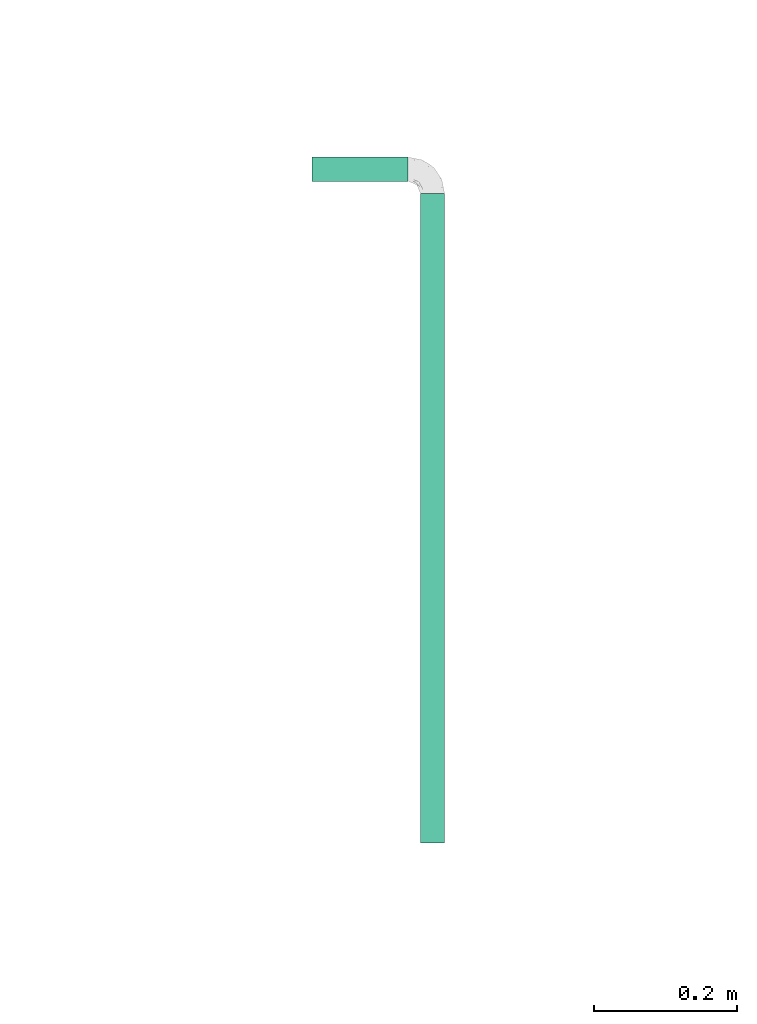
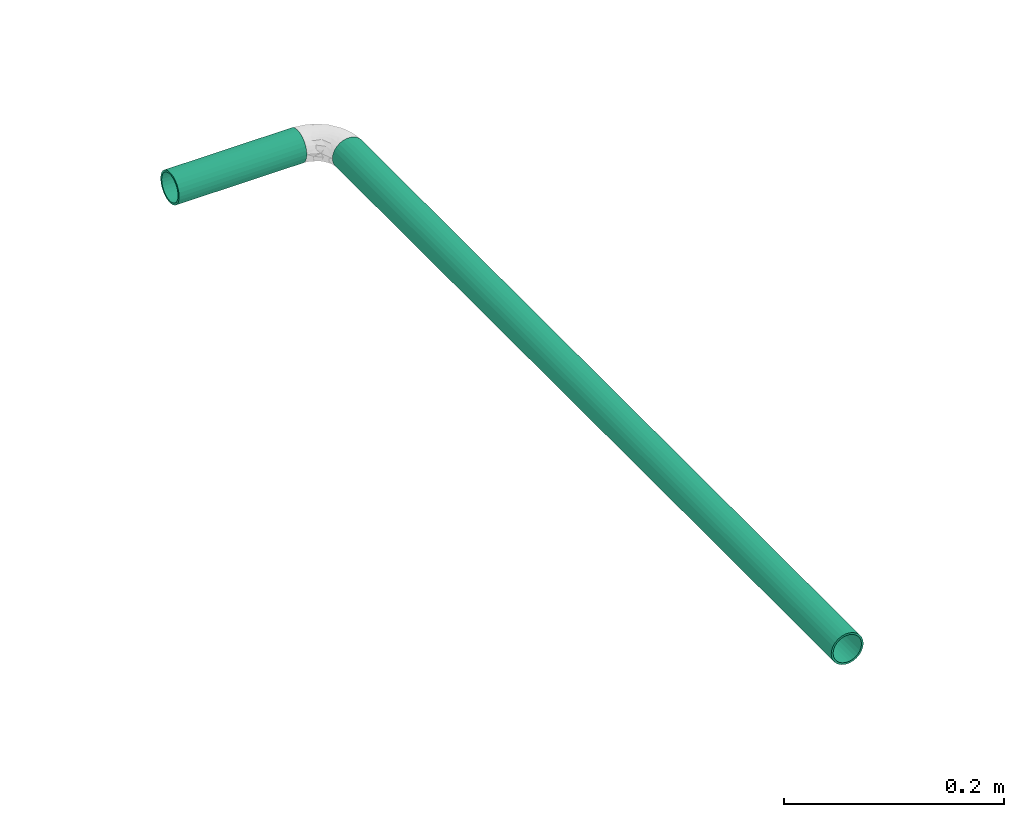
# One storey, part 12 of 63: 2 flow segments.
"""IFC2X3 building model written with IfcOpenShell, lengths in millimetres."""

import ifcopenshell
import ifcopenshell.guid

model = None  # the IFC model being written
_history = None  # IfcOwnerHistory: only IFC2X3 demands one
_inside = {}  # id of a spatial element -> (the spatial element, [elements in it])
_under = {}  # id of a project, library or spatial element -> (it, [spatial elements below it])
_declared = {}  # id of a project -> (the project, [libraries it declares])
_typed = {}  # id of a type object -> (the type object, [elements of that type])
_made_of = {}  # id of a material, layer set ... -> (it, [elements and type objects made of it])


def new_model(schema):
    """Start an empty IFC model of exactly this schema.

    Asked for "IFC4X3", IfcOpenShell would pick the latest addendum, in which some entities
    have other attributes; the version numbers below select the first issue.
    IFC2X3 requires an IfcOwnerHistory on every rooted entity: one is made here for all.
    """
    global model, _history
    if schema == "IFC4X3":
        model = ifcopenshell.file(schema_version=(4, 3, 0, 0))
    else:
        model = ifcopenshell.file(schema=schema)
    _inside.clear()
    _under.clear()
    _declared.clear()
    _typed.clear()
    _made_of.clear()
    _history = None
    if model.schema == "IFC2X3":
        org = make("IfcOrganization", Name="unknown")
        user = make(
            "IfcPersonAndOrganization",
            ThePerson=make("IfcPerson", FamilyName="unknown"),
            TheOrganization=org,
        )
        app = make(
            "IfcApplication",
            ApplicationDeveloper=org,
            Version="unknown",
            ApplicationFullName="unknown",
            ApplicationIdentifier="unknown",
        )
        _history = make(
            "IfcOwnerHistory",
            OwningUser=user,
            OwningApplication=app,
            ChangeAction="ADDED",
            CreationDate=0,
        )
    return model


def make(cls, **values):
    """One entity of the class cls with the attributes given. An attribute that is None is left unset."""
    return model.create_entity(
        cls, **{name: value for name, value in values.items() if value is not None}
    )


def entity(cls, *values):
    """Any entity or typed value of the class cls, its attributes in the order of the schema. None: left unset."""
    e = model.create_entity(cls)
    for i, value in enumerate(values):
        if value is not None:
            e[i] = value
    return e


def rooted(cls, **values):
    """An entity with a GlobalId (a new one), such as an element, a storey or a relation."""
    return make(cls, GlobalId=ifcopenshell.guid.new(), OwnerHistory=_history, **values)


def si_unit(unit_type, name, prefix=None):
    """IfcSIUnit, for example si_unit("LENGTHUNIT", "METRE", prefix="MILLI")."""
    return make("IfcSIUnit", UnitType=unit_type, Prefix=prefix, Name=name)


def converted_unit(unit_type, name, factor, base, dimensions=None, offset=None):
    """IfcConversionBasedUnit, such as the inch: factor (a typed value) times the base unit."""
    return make(
        "IfcConversionBasedUnit"
        if offset is None
        else "IfcConversionBasedUnitWithOffset",
        ConversionOffset=offset,
        Dimensions=None
        if dimensions is None
        else entity("IfcDimensionalExponents", *dimensions),
        UnitType=unit_type,
        Name=name,
        ConversionFactor=make(
            "IfcMeasureWithUnit", ValueComponent=factor, UnitComponent=base
        ),
    )


def derived_unit(unit_type, elements):
    """IfcDerivedUnit: a product of units, each with its exponent."""
    return make(
        "IfcDerivedUnit",
        Elements=[
            make("IfcDerivedUnitElement", Unit=unit, Exponent=power)
            for unit, power in elements
        ],
        UnitType=unit_type,
    )


def assignment(units):
    """IfcUnitAssignment: the units of a project."""
    return None if units is None else make("IfcUnitAssignment", Units=units)


def point(xyz):
    """IfcCartesianPoint."""
    return None if xyz is None else make("IfcCartesianPoint", Coordinates=xyz)


def direction(xyz):
    """IfcDirection."""
    return None if xyz is None else make("IfcDirection", DirectionRatios=xyz)


def frame(location, z_axis=None, x_axis=None):
    """IfcAxis2Placement3D, a coordinate frame: its origin and axes. An axis left out is left unset."""
    return make(
        "IfcAxis2Placement3D",
        Location=point(location),
        Axis=direction(z_axis),
        RefDirection=direction(x_axis),
    )


def frame_2d(location, x_axis=None):
    """IfcAxis2Placement2D, a coordinate frame in the plane: its origin and x axis."""
    return make(
        "IfcAxis2Placement2D", Location=point(location), RefDirection=direction(x_axis)
    )


def origin_with_axes():
    """The frame at (0, 0, 0) with the z axis (0, 0, 1) and the x axis (1, 0, 0) written out."""
    return frame((0.0, 0.0, 0.0), z_axis=(0.0, 0.0, 1.0), x_axis=(1.0, 0.0, 0.0))


def origin_2d_with_axis():
    """The frame at (0, 0) in the plane with the x axis (1, 0) written out."""
    return frame_2d((0.0, 0.0), x_axis=(1.0, 0.0))


def place(relative_to, where):
    """IfcLocalPlacement: puts the frame where relative to a parent placement (None: the world)."""
    return make(
        "IfcLocalPlacement", PlacementRelTo=relative_to, RelativePlacement=where
    )


def context(
    kind, dimensions, precision=None, world=None, true_north=None, identifier=None
):
    """IfcGeometricRepresentationContext, for example the 3D "Model" context."""
    return make(
        "IfcGeometricRepresentationContext",
        ContextIdentifier=identifier,
        ContextType=kind,
        CoordinateSpaceDimension=dimensions,
        Precision=precision,
        WorldCoordinateSystem=world,
        TrueNorth=true_north,
    )


def subcontext(parent, identifier, kind, view, scale=None):
    """IfcGeometricRepresentationSubContext, for example "Body" below "Model"."""
    return make(
        "IfcGeometricRepresentationSubContext",
        ContextIdentifier=identifier,
        ContextType=kind,
        ParentContext=parent,
        TargetScale=scale,
        TargetView=view,
    )


def project(units=None, contexts=None):
    """IfcProject with its units and contexts."""
    return rooted(
        "IfcProject",
        Name="project",
        RepresentationContexts=contexts,
        UnitsInContext=assignment(units),
    )


def spatial(cls, under=None, at=None, **own):
    """A site, building, storey or space (cls), placed at a placement, below another one or the project."""
    s = rooted(cls, ObjectPlacement=at, **own)
    if under is not None:
        _under.setdefault(under.id(), (under, []))[1].append(s)
    return s


def profile(cls, at=None, kind="AREA", **sizes):
    """A parametric profile (cls). Its sizes go by their IFC names, for example OverallWidth=200.0."""
    return make(cls, ProfileType=kind, Position=at, **sizes)


def hollow_circle(**sizes):
    """IfcCircleHollowProfileDef."""
    return profile("IfcCircleHollowProfileDef", **sizes)


def extrude(swept, where, along, depth):
    """IfcExtrudedAreaSolid: the profile swept, set in the frame where, extruded along a direction by depth."""
    return make(
        "IfcExtrudedAreaSolid",
        SweptArea=swept,
        Position=where,
        ExtrudedDirection=direction(along),
        Depth=depth,
    )


def shape(context_of_items, identifier, shape_type, items):
    """IfcShapeRepresentation: the items that make up one representation, for example the "Body"."""
    return make(
        "IfcShapeRepresentation",
        ContextOfItems=context_of_items,
        RepresentationIdentifier=identifier,
        RepresentationType=shape_type,
        Items=items,
    )


def source(mapping_origin, context_of_items, identifier, shape_type, items):
    """IfcRepresentationMap: a shape defined once, which mapped items show again and again."""
    return make(
        "IfcRepresentationMap",
        MappingOrigin=mapping_origin,
        MappedRepresentation=shape(context_of_items, identifier, shape_type, items),
    )


def transform(
    local_origin,
    x_axis=None,
    y_axis=None,
    z_axis=None,
    scale=None,
    scale2=None,
    scale3=None,
    uniform=True,
):
    """IfcCartesianTransformationOperator3D, or its non-uniform kind. x_axis, y_axis, z_axis: its Axis1, 2, 3."""
    if uniform:
        return make(
            "IfcCartesianTransformationOperator3D",
            Axis1=direction(x_axis),
            Axis2=direction(y_axis),
            LocalOrigin=point(local_origin),
            Scale=scale,
            Axis3=direction(z_axis),
        )
    return make(
        "IfcCartesianTransformationOperator3DnonUniform",
        Axis1=direction(x_axis),
        Axis2=direction(y_axis),
        LocalOrigin=point(local_origin),
        Scale=scale,
        Axis3=direction(z_axis),
        Scale2=scale2,
        Scale3=scale3,
    )


def mapped(mapping_source, mapping_target):
    """IfcMappedItem: shows the shape of a source again, moved by a transform."""
    return make(
        "IfcMappedItem", MappingSource=mapping_source, MappingTarget=mapping_target
    )


def made_of(thing, what):
    """Note that an element or type object is made of a material, layer set ...; save() writes the relation."""
    if what is not None:
        _made_of.setdefault(what.id(), (what, []))[1].append(thing)
    return thing


def type_object(cls, material=None, **own):
    """A type object (cls), such as IfcWallType, which elements share."""
    return made_of(rooted(cls, **own), material)


def element(
    cls,
    number,
    at=None,
    inside=None,
    cuts=None,
    type_object=None,
    material=None,
    context=None,
    identifier="Body",
    shape_type=None,
    held_by="IfcProductDefinitionShape",
    body=None,
    shapes=None,
    **own,
):
    """One element of the class cls, such as IfcWall. Its Tag is "e" and its number.

    at: its placement. inside: the storey or other place that contains it. cuts: it is an
    opening in that element (IfcRelVoidsElement). A single representation is given by context,
    identifier, shape_type and body (its items); several are given by shapes. held_by: the class
    of the entity that holds the representations. save() writes the other relations.
    """
    e = rooted(cls, Tag="e%d" % number, ObjectPlacement=at, **own)
    if body is not None:
        shapes = [shape(context, identifier, shape_type, body)]
    if shapes is not None:
        e.Representation = make(held_by, Representations=shapes)
    if inside is not None:
        _inside.setdefault(inside.id(), (inside, []))[1].append(e)
    if cuts is not None:
        rooted(
            "IfcRelVoidsElement", RelatingBuildingElement=cuts, RelatedOpeningElement=e
        )
    if type_object is not None:
        _typed.setdefault(type_object.id(), (type_object, []))[1].append(e)
    return made_of(e, material)


def aggregate(whole, parts):
    """IfcRelAggregates: a whole, such as a stair, and the parts it consists of."""
    return rooted("IfcRelAggregates", RelatingObject=whole, RelatedObjects=parts)


def save(model, path):
    """Write the relations noted so far, then the file.

    IfcRelAggregates (storeys below a building ...), IfcRelContainedInSpatialStructure (elements
    in a storey), IfcRelDefinesByType, IfcRelAssociatesMaterial and IfcRelDeclares: one each for
    every whole, place, type object, material and project.
    """
    for whole, parts in _under.values():
        aggregate(whole, parts)
    for where, things in _inside.values():
        rooted(
            "IfcRelContainedInSpatialStructure",
            RelatedElements=things,
            RelatingStructure=where,
        )
    for kind, things in _typed.values():
        rooted("IfcRelDefinesByType", RelatedObjects=things, RelatingType=kind)
    for what, things in _made_of.values():
        rooted("IfcRelAssociatesMaterial", RelatedObjects=things, RelatingMaterial=what)
    for by, libraries in _declared.values():
        rooted("IfcRelDeclares", RelatingContext=by, RelatedDefinitions=libraries)
    model.write(path)


model = new_model("IFC2X3")

# Units and contexts
model_context = context("Model", 3, precision=0.01, world=frame((0.0, 4.29681676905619e-09, 0.0)), true_north=direction((4.01073788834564e-13, 1.0)))
plan_context = context("Plan", 3, precision=0.01, world=frame((0.0, 4.29681676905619e-09, 0.0)), true_north=direction((4.01073788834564e-13, 1.0)))
body_context = subcontext(model_context, "Body", "Model", "MODEL_VIEW")
ifc_project = project(units=[converted_unit("PLANEANGLEUNIT", "DEGREE", entity("IfcPositiveLengthMeasure", 0.0174532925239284), si_unit("PLANEANGLEUNIT", "RADIAN"), dimensions=[0, 0, 0, 0, 0, 0, 0]), si_unit("AREAUNIT", "SQUARE_METRE"), si_unit("LENGTHUNIT", "METRE", prefix="MILLI"), si_unit("MASSUNIT", "GRAM", prefix="KILO"), si_unit("POWERUNIT", "WATT"), si_unit("PRESSUREUNIT", "PASCAL", prefix="KILO"), si_unit("FORCEUNIT", "NEWTON", prefix="KILO"), si_unit("ELECTRICVOLTAGEUNIT", "VOLT"), si_unit("ELECTRICCURRENTUNIT", "AMPERE"), si_unit("THERMODYNAMICTEMPERATUREUNIT", "DEGREE_CELSIUS"), si_unit("TIMEUNIT", "SECOND"), si_unit("VOLUMEUNIT", "CUBIC_METRE"), derived_unit("LINEARVELOCITYUNIT", [(si_unit("LENGTHUNIT", "METRE"), 1), (si_unit("TIMEUNIT", "SECOND"), -1)]), derived_unit("VOLUMETRICFLOWRATEUNIT", [(si_unit("VOLUMEUNIT", "CUBIC_METRE"), 1), (si_unit("TIMEUNIT", "SECOND"), -1)]), derived_unit("THERMALTRANSMITTANCEUNIT", [(si_unit("POWERUNIT", "WATT"), 1), (si_unit("THERMODYNAMICTEMPERATUREUNIT", "KELVIN"), -1), (si_unit("AREAUNIT", "SQUARE_METRE"), -1)]), derived_unit("SOUNDPRESSUREUNIT", [(si_unit("PRESSUREUNIT", "PASCAL"), 1)])], contexts=[model_context, plan_context])

# Site, building, storey
site_placement = place(None, frame((0.0, -4.29681676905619e-09, 0.0), z_axis=(0.0, 0.0, 1.0), x_axis=(1.0, 0.0, 0.0)))
site = spatial("IfcSite", under=ifc_project, at=site_placement, CompositionType="ELEMENT")
building_placement = place(site_placement, frame((0.0, 4.29681676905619e-09, 0.0), z_axis=(0.0, 0.0, 1.0), x_axis=(1.0, 0.0, 0.0)))
building = spatial("IfcBuilding", under=site, at=building_placement, Name="mc-building", CompositionType="ELEMENT")
storey_placement = place(building_placement, frame((0.0, 0.0, 207370.0), z_axis=(0.0, 0.0, 1.0), x_axis=(1.0, 0.0, 0.0)))
storey = spatial("IfcBuildingStorey", under=building, at=storey_placement, Name="Nivå E", CompositionType="ELEMENT", Elevation=207370.0)

# Flow segments
pipe_segment_type = type_object("IfcPipeSegmentType", Name="Stålrør normaltykke", PredefinedType="RIGIDSEGMENT")
shared_shape_1 = source(origin_with_axes(), body_context, "Body", "SweptSolid", [
    extrude(hollow_circle(Radius=16.9, WallThickness=2.0, at=origin_2d_with_axis()), frame((0.0, 0.0, 0.0), z_axis=(1.0, 0.0, 0.0), x_axis=(0.0, 1.0, 0.0)), (0.0, 0.0, 1.0), 905.9),
])
flow_segment_1_placement = place(storey_placement, frame((722201.53694, 438261.03424, 7130.0), z_axis=(0.0, 0.0, 1.0), x_axis=(0.0, 1.0, 0.0)))
element("IfcFlowSegment", 1, at=flow_segment_1_placement, inside=storey, type_object=pipe_segment_type, Name="Stålrør normaltykke", context=body_context, shape_type="MappedRepresentation", body=[
    mapped(shared_shape_1, transform((0.0, 0.0, 0.0), scale=1.0)),
])
shared_shape_2 = source(origin_with_axes(), body_context, "Body", "SweptSolid", [
    extrude(hollow_circle(Radius=16.9, WallThickness=2.0, at=origin_2d_with_axis()), frame((0.0, 0.0, 0.0), z_axis=(1.0, 0.0, 0.0), x_axis=(0.0, 1.0, 0.0)), (0.0, 0.0, 1.0), 133.9),
])
flow_segment_2_placement = place(storey_placement, frame((722033.8, 439200.7, 7130.0), z_axis=(0.0, 0.0, 1.0), x_axis=(1.0, 0.0, 0.0)))
element("IfcFlowSegment", 2, at=flow_segment_2_placement, inside=storey, type_object=pipe_segment_type, Name="Stålrør normaltykke", context=body_context, shape_type="MappedRepresentation", body=[
    mapped(shared_shape_2, transform((0.0, 0.0, 0.0), scale=1.0)),
])

save(model, "model.ifc")
